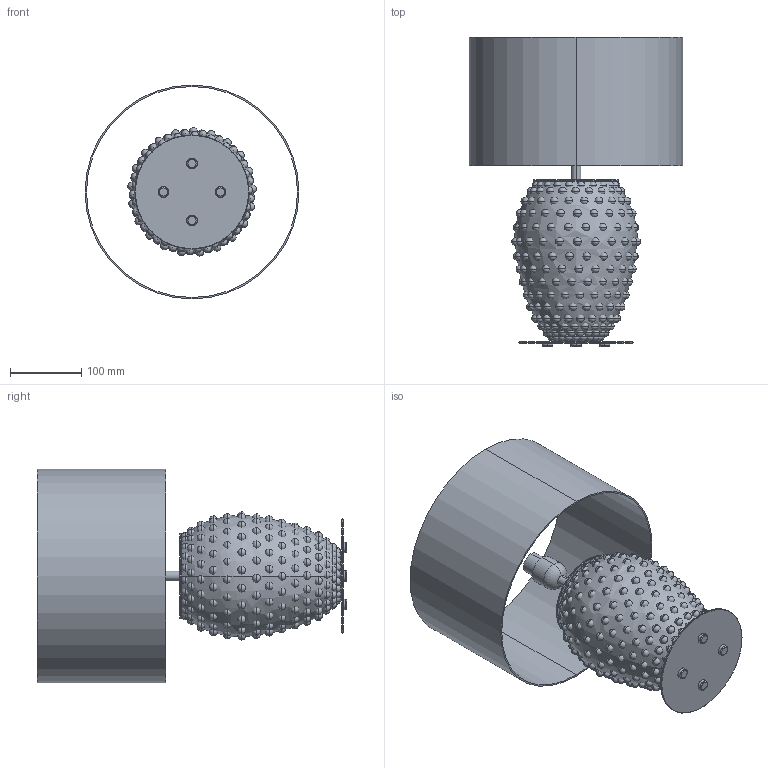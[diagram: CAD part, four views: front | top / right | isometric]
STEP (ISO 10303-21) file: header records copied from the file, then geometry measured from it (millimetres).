
FILE_DESCRIPTION (( 'STEP AP214' ), '1' );
FILE_NAME ('NAC135_1_B_CACTUS.STEP', '2024-02-05T11:49:14', ( '' ), ( '' ), 'SwSTEP 2.0', 'SolidWorks 2018', '' );
FILE_SCHEMA (( 'AUTOMOTIVE_DESIGN' ));
Length unit declared in the file: millimetre
Products named in the file (2): NAC135_1_B_CACTUS
Bounding box: 300 x 434 x 300 mm (x, y, z)
Volume: 1221572.3 mm3; surface area: 752899 mm2
Topology: 323 solids, 323 shells, 698 faces, 2329 edges, 1651 vertices
Faces by surface type: sphere 630, torus 20, plane 20, cylinder 16, cone 8, bspline 4
Entity records: 25524 total; most frequent: DIRECTION 2868, CARTESIAN_POINT 2771, ORIENTED_EDGE 1508, AXIS2_PLACEMENT_3D 1422, UNCERTAINTY_MEASURE_WITH_UNIT 1023, FILL_AREA_STYLE_COLOUR 1022, PRESENTATION_STYLE_ASSIGNMENT 1022, MECHANICAL_DESIGN_GEOMETRIC_PRESENTATION_REPRESENTATION 1022
